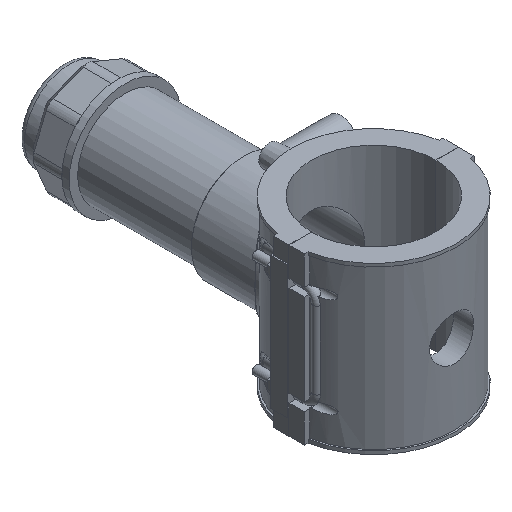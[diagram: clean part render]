
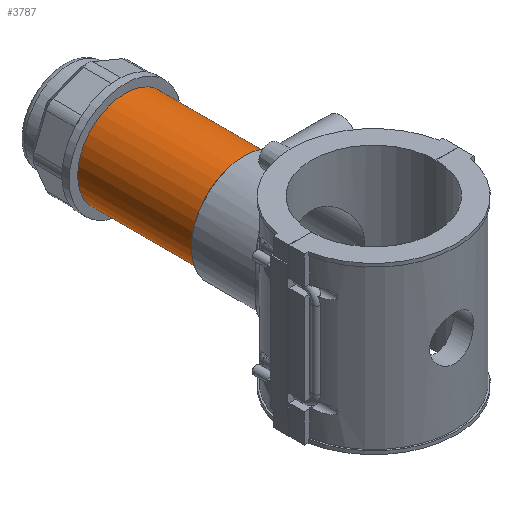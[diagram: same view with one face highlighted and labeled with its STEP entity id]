
A CAD part, isometric view. The second image highlights one B-rep face of the part: STEP entity #3787.
In plain terms, the highlighted cylindrical face has radius 33.928 mm (diameter 67.856 mm), a full revolution.
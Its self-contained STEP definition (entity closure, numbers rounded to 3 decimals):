
#53=FACE_BOUND('',#560,.T.);
#82=B_SPLINE_CURVE_WITH_KNOTS('',3,(#5587,#5588,#5589,#5590,#5591,#5592,
#5593,#5594,#5595,#5596),.UNSPECIFIED.,.F.,.F.,(4,2,2,2,4),(0.,0.42,
0.839,1.259,1.678),.UNSPECIFIED.);
#83=B_SPLINE_CURVE_WITH_KNOTS('',3,(#5597,#5598,#5599,#5600,#5601,#5602,
#5603,#5604,#5605,#5606,#5607,#5608,#5609,#5610,#5611,#5612,#5613,#5614,
#5615,#5616,#5617,#5618,#5619,#5620,#5621,#5622),.UNSPECIFIED.,.F.,.F.,
(4,2,2,2,2,2,2,2,2,2,2,2,4),(1.678,2.098,2.517,
2.937,3.357,3.776,4.196,4.615,
5.035,5.454,5.874,6.293,6.713),
 .UNSPECIFIED.);
#344=FACE_OUTER_BOUND('',#559,.T.);
#559=EDGE_LOOP('',(#2788,#2789,#2790,#2791,#2792,#2793));
#560=EDGE_LOOP('',(#2794,#2795));
#779=CIRCLE('',#4052,33.928);
#780=CIRCLE('',#4053,33.928);
#793=CIRCLE('',#4080,33.928);
#794=CIRCLE('',#4081,33.928);
#956=LINE('',#5872,#1297);
#1297=VECTOR('',#4630,33.928);
#1582=VERTEX_POINT('',#5584);
#1583=VERTEX_POINT('',#5586);
#1645=VERTEX_POINT('',#5813);
#1646=VERTEX_POINT('',#5814);
#1660=VERTEX_POINT('',#5868);
#1661=VERTEX_POINT('',#5869);
#1960=EDGE_CURVE('',#1583,#1582,#82,.T.);
#1961=EDGE_CURVE('',#1582,#1583,#83,.T.);
#2056=EDGE_CURVE('',#1645,#1646,#779,.T.);
#2057=EDGE_CURVE('',#1646,#1645,#780,.T.);
#2082=EDGE_CURVE('',#1660,#1661,#793,.T.);
#2083=EDGE_CURVE('',#1661,#1660,#794,.T.);
#2084=EDGE_CURVE('',#1661,#1646,#956,.T.);
#2788=ORIENTED_EDGE('',*,*,#2082,.F.);
#2789=ORIENTED_EDGE('',*,*,#2083,.F.);
#2790=ORIENTED_EDGE('',*,*,#2084,.T.);
#2791=ORIENTED_EDGE('',*,*,#2057,.T.);
#2792=ORIENTED_EDGE('',*,*,#2056,.T.);
#2793=ORIENTED_EDGE('',*,*,#2084,.F.);
#2794=ORIENTED_EDGE('',*,*,#1960,.T.);
#2795=ORIENTED_EDGE('',*,*,#1961,.T.);
#3691=CYLINDRICAL_SURFACE('',#4079,33.928);
#3787=ADVANCED_FACE('',(#344,#53),#3691,.T.);
#4052=AXIS2_PLACEMENT_3D('',#5815,#4558,#4559);
#4053=AXIS2_PLACEMENT_3D('',#5816,#4560,#4561);
#4079=AXIS2_PLACEMENT_3D('',#5867,#4624,#4625);
#4080=AXIS2_PLACEMENT_3D('',#5870,#4626,#4627);
#4081=AXIS2_PLACEMENT_3D('',#5871,#4628,#4629);
#4558=DIRECTION('center_axis',(0.,1.,0.));
#4559=DIRECTION('ref_axis',(1.,0.,0.));
#4560=DIRECTION('center_axis',(0.,1.,0.));
#4561=DIRECTION('ref_axis',(1.,0.,0.));
#4624=DIRECTION('center_axis',(0.,1.,0.));
#4625=DIRECTION('ref_axis',(0.,0.,1.));
#4626=DIRECTION('center_axis',(0.,1.,0.));
#4627=DIRECTION('ref_axis',(1.,0.,0.));
#4628=DIRECTION('center_axis',(0.,1.,0.));
#4629=DIRECTION('ref_axis',(1.,0.,0.));
#4630=DIRECTION('',(0.,-1.,0.));
#5584=CARTESIAN_POINT('',(33.928,98.324,0.));
#5586=CARTESIAN_POINT('',(32.078,109.374,-11.05));
#5587=CARTESIAN_POINT('Ctrl Pts',(32.078,109.374,-11.05));
#5588=CARTESIAN_POINT('Ctrl Pts',(32.078,107.975,-11.05));
#5589=CARTESIAN_POINT('Ctrl Pts',(32.179,106.491,-10.768));
#5590=CARTESIAN_POINT('Ctrl Pts',(32.536,103.772,-9.638));
#5591=CARTESIAN_POINT('Ctrl Pts',(32.785,102.536,-8.789));
#5592=CARTESIAN_POINT('Ctrl Pts',(33.247,100.585,-6.838));
#5593=CARTESIAN_POINT('Ctrl Pts',(33.49,99.736,-5.603));
#5594=CARTESIAN_POINT('Ctrl Pts',(33.833,98.606,-2.883));
#5595=CARTESIAN_POINT('Ctrl Pts',(33.928,98.324,-1.398));
#5596=CARTESIAN_POINT('Ctrl Pts',(33.928,98.324,0.));
#5597=CARTESIAN_POINT('Ctrl Pts',(33.928,98.324,0.));
#5598=CARTESIAN_POINT('Ctrl Pts',(33.928,98.324,1.398));
#5599=CARTESIAN_POINT('Ctrl Pts',(33.833,98.606,2.883));
#5600=CARTESIAN_POINT('Ctrl Pts',(33.49,99.736,5.603));
#5601=CARTESIAN_POINT('Ctrl Pts',(33.247,100.585,6.838));
#5602=CARTESIAN_POINT('Ctrl Pts',(32.785,102.536,8.789));
#5603=CARTESIAN_POINT('Ctrl Pts',(32.536,103.772,9.638));
#5604=CARTESIAN_POINT('Ctrl Pts',(32.179,106.491,10.768));
#5605=CARTESIAN_POINT('Ctrl Pts',(32.078,107.975,11.05));
#5606=CARTESIAN_POINT('Ctrl Pts',(32.078,110.773,11.05));
#5607=CARTESIAN_POINT('Ctrl Pts',(32.179,112.257,10.768));
#5608=CARTESIAN_POINT('Ctrl Pts',(32.536,114.976,9.638));
#5609=CARTESIAN_POINT('Ctrl Pts',(32.785,116.212,8.789));
#5610=CARTESIAN_POINT('Ctrl Pts',(33.247,118.163,6.838));
#5611=CARTESIAN_POINT('Ctrl Pts',(33.49,119.012,5.603));
#5612=CARTESIAN_POINT('Ctrl Pts',(33.833,120.142,2.883));
#5613=CARTESIAN_POINT('Ctrl Pts',(33.928,120.424,1.398));
#5614=CARTESIAN_POINT('Ctrl Pts',(33.928,120.424,-1.398));
#5615=CARTESIAN_POINT('Ctrl Pts',(33.833,120.142,-2.883));
#5616=CARTESIAN_POINT('Ctrl Pts',(33.49,119.012,-5.603));
#5617=CARTESIAN_POINT('Ctrl Pts',(33.247,118.163,-6.838));
#5618=CARTESIAN_POINT('Ctrl Pts',(32.785,116.212,-8.789));
#5619=CARTESIAN_POINT('Ctrl Pts',(32.536,114.976,-9.638));
#5620=CARTESIAN_POINT('Ctrl Pts',(32.179,112.257,-10.768));
#5621=CARTESIAN_POINT('Ctrl Pts',(32.078,110.773,-11.05));
#5622=CARTESIAN_POINT('Ctrl Pts',(32.078,109.374,-11.05));
#5813=CARTESIAN_POINT('',(0.,92.927,33.928));
#5814=CARTESIAN_POINT('',(0.,92.927,-33.928));
#5815=CARTESIAN_POINT('Origin',(0.,92.927,0.));
#5816=CARTESIAN_POINT('Origin',(0.,92.927,0.));
#5867=CARTESIAN_POINT('Origin',(0.,135.028,0.));
#5868=CARTESIAN_POINT('',(0.,177.129,33.928));
#5869=CARTESIAN_POINT('',(0.,177.129,-33.928));
#5870=CARTESIAN_POINT('Origin',(0.,177.129,0.));
#5871=CARTESIAN_POINT('Origin',(0.,177.129,0.));
#5872=CARTESIAN_POINT('',(0.,135.028,-33.928));
